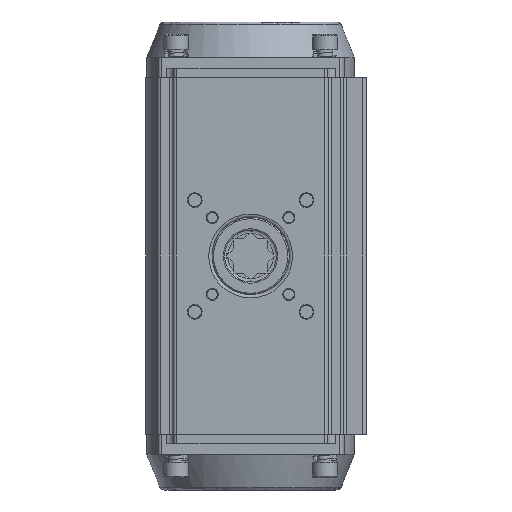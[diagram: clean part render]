
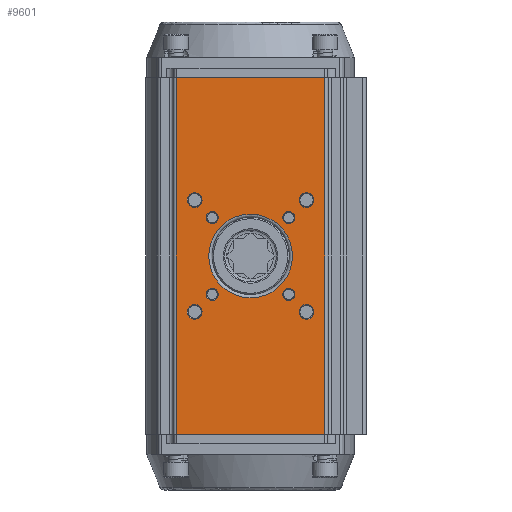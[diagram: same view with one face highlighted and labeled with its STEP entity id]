
A CAD part, front view. The second image highlights one B-rep face of the part: STEP entity #9601.
In plain terms, the highlighted planar face has unit normal (0, -1, 0).
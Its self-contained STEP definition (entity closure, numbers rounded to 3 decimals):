
#9601=ADVANCED_FACE('',(#20029,#20031,#20033,#20035,#20037,#20039,#20041,#20043,
#20045,#20047),#20049,.T.);
#20029=FACE_BOUND('',#20030,.T.);
#20030=EDGE_LOOP('',(#26183,#26184,#26185,#26186));
#20031=FACE_BOUND('',#20032,.T.);
#20032=EDGE_LOOP('',(#26187));
#20033=FACE_BOUND('',#20034,.T.);
#20034=EDGE_LOOP('',(#26188));
#20035=FACE_BOUND('',#20036,.T.);
#20036=EDGE_LOOP('',(#26189));
#20037=FACE_BOUND('',#20038,.T.);
#20038=EDGE_LOOP('',(#26190));
#20039=FACE_BOUND('',#20040,.T.);
#20040=EDGE_LOOP('',(#26191));
#20041=FACE_BOUND('',#20042,.T.);
#20042=EDGE_LOOP('',(#26192));
#20043=FACE_BOUND('',#20044,.T.);
#20044=EDGE_LOOP('',(#26193));
#20045=FACE_BOUND('',#20046,.T.);
#20046=EDGE_LOOP('',(#26194));
#20047=FACE_BOUND('',#20048,.T.);
#20048=EDGE_LOOP('',(#26195,#26196));
#20049=PLANE('',#20050);
#20050=AXIS2_PLACEMENT_3D('',#20051,#20052,#20053);
#20051=CARTESIAN_POINT('',(-50.,-77.5,-115.));
#20052=DIRECTION('',(0.,-1.,0.));
#20053=DIRECTION('',(0.,0.,-1.));
#26183=ORIENTED_EDGE('',*,*,#29109,.T.);
#26184=ORIENTED_EDGE('',*,*,#29189,.F.);
#26185=ORIENTED_EDGE('',*,*,#29169,.F.);
#26186=ORIENTED_EDGE('',*,*,#29190,.T.);
#26187=ORIENTED_EDGE('',*,*,#29031,.T.);
#26188=ORIENTED_EDGE('',*,*,#29033,.T.);
#26189=ORIENTED_EDGE('',*,*,#29035,.T.);
#26190=ORIENTED_EDGE('',*,*,#29037,.T.);
#26191=ORIENTED_EDGE('',*,*,#29039,.T.);
#26192=ORIENTED_EDGE('',*,*,#29041,.T.);
#26193=ORIENTED_EDGE('',*,*,#29043,.T.);
#26194=ORIENTED_EDGE('',*,*,#29045,.T.);
#26195=ORIENTED_EDGE('',*,*,#28908,.F.);
#26196=ORIENTED_EDGE('',*,*,#28909,.F.);
#28908=EDGE_CURVE('',#32675,#32676,#32677,.T.);
#28909=EDGE_CURVE('',#32676,#32675,#32678,.T.);
#29031=EDGE_CURVE('',#32910,#32910,#32911,.T.);
#29033=EDGE_CURVE('',#32914,#32914,#32915,.T.);
#29035=EDGE_CURVE('',#32918,#32918,#32919,.T.);
#29037=EDGE_CURVE('',#32922,#32922,#32923,.T.);
#29039=EDGE_CURVE('',#32926,#32926,#32927,.T.);
#29041=EDGE_CURVE('',#32930,#32930,#32931,.T.);
#29043=EDGE_CURVE('',#32934,#32934,#32935,.T.);
#29045=EDGE_CURVE('',#32938,#32938,#32939,.T.);
#29109=EDGE_CURVE('',#33052,#33050,#33053,.T.);
#29169=EDGE_CURVE('',#33163,#33165,#33166,.T.);
#29189=EDGE_CURVE('',#33165,#33050,#33194,.T.);
#29190=EDGE_CURVE('',#33163,#33052,#33195,.T.);
#32675=VERTEX_POINT('',#58434);
#32676=VERTEX_POINT('',#58435);
#32677=CIRCLE('',#58436,27.);
#32678=CIRCLE('',#58440,27.);
#32910=VERTEX_POINT('',#63666);
#32911=CIRCLE('',#63667,4.75);
#32914=VERTEX_POINT('',#63777);
#32915=CIRCLE('',#63778,3.9);
#32918=VERTEX_POINT('',#63888);
#32919=CIRCLE('',#63889,3.9);
#32922=VERTEX_POINT('',#63999);
#32923=CIRCLE('',#64000,4.75);
#32926=VERTEX_POINT('',#64110);
#32927=CIRCLE('',#64111,3.9);
#32930=VERTEX_POINT('',#64221);
#32931=CIRCLE('',#64222,4.75);
#32934=VERTEX_POINT('',#64332);
#32935=CIRCLE('',#64333,3.9);
#32938=VERTEX_POINT('',#64443);
#32939=CIRCLE('',#64444,4.75);
#33050=VERTEX_POINT('',#65636);
#33052=VERTEX_POINT('',#65641);
#33053=LINE('',#65642,#65643);
#33163=VERTEX_POINT('',#66011);
#33165=VERTEX_POINT('',#66016);
#33166=LINE('',#66017,#66018);
#33194=LINE('',#66090,#66091);
#33195=LINE('',#66093,#66094);
#58434=CARTESIAN_POINT('',(0.3,-77.5,-26.998));
#58435=CARTESIAN_POINT('',(-0.3,-77.5,26.998));
#58436=AXIS2_PLACEMENT_3D('',#58437,#58438,#58439);
#58437=CARTESIAN_POINT('',(0.,-77.5,0.));
#58438=DIRECTION('',(0.,-1.,0.));
#58439=DIRECTION('',(0.011,0.,-1.));
#58440=AXIS2_PLACEMENT_3D('',#58441,#58442,#58443);
#58441=CARTESIAN_POINT('',(0.,-77.5,0.));
#58442=DIRECTION('',(0.,-1.,0.));
#58443=DIRECTION('',(-0.011,0.,1.));
#63666=CARTESIAN_POINT('',(-36.062,-77.5,-40.812));
#63667=AXIS2_PLACEMENT_3D('',#63668,#63669,#63670);
#63668=CARTESIAN_POINT('',(-36.062,-77.5,-36.062));
#63669=DIRECTION('',(0.,1.,0.));
#63670=DIRECTION('',(0.,0.,-1.));
#63777=CARTESIAN_POINT('',(-24.749,-77.5,-28.649));
#63778=AXIS2_PLACEMENT_3D('',#63779,#63780,#63781);
#63779=CARTESIAN_POINT('',(-24.749,-77.5,-24.749));
#63780=DIRECTION('',(0.,1.,0.));
#63781=DIRECTION('',(0.,0.,-1.));
#63888=CARTESIAN_POINT('',(-24.749,-77.5,20.849));
#63889=AXIS2_PLACEMENT_3D('',#63890,#63891,#63892);
#63890=CARTESIAN_POINT('',(-24.749,-77.5,24.749));
#63891=DIRECTION('',(0.,1.,0.));
#63892=DIRECTION('',(0.,0.,-1.));
#63999=CARTESIAN_POINT('',(-36.062,-77.5,31.312));
#64000=AXIS2_PLACEMENT_3D('',#64001,#64002,#64003);
#64001=CARTESIAN_POINT('',(-36.062,-77.5,36.062));
#64002=DIRECTION('',(0.,1.,0.));
#64003=DIRECTION('',(0.,0.,-1.));
#64110=CARTESIAN_POINT('',(24.749,-77.5,-28.649));
#64111=AXIS2_PLACEMENT_3D('',#64112,#64113,#64114);
#64112=CARTESIAN_POINT('',(24.749,-77.5,-24.749));
#64113=DIRECTION('',(0.,1.,0.));
#64114=DIRECTION('',(0.,0.,-1.));
#64221=CARTESIAN_POINT('',(36.062,-77.5,-40.812));
#64222=AXIS2_PLACEMENT_3D('',#64223,#64224,#64225);
#64223=CARTESIAN_POINT('',(36.062,-77.5,-36.062));
#64224=DIRECTION('',(0.,1.,0.));
#64225=DIRECTION('',(0.,0.,-1.));
#64332=CARTESIAN_POINT('',(24.749,-77.5,20.849));
#64333=AXIS2_PLACEMENT_3D('',#64334,#64335,#64336);
#64334=CARTESIAN_POINT('',(24.749,-77.5,24.749));
#64335=DIRECTION('',(0.,1.,0.));
#64336=DIRECTION('',(0.,0.,-1.));
#64443=CARTESIAN_POINT('',(36.062,-77.5,31.312));
#64444=AXIS2_PLACEMENT_3D('',#64445,#64446,#64447);
#64445=CARTESIAN_POINT('',(36.062,-77.5,36.062));
#64446=DIRECTION('',(0.,1.,0.));
#64447=DIRECTION('',(0.,0.,-1.));
#65636=CARTESIAN_POINT('',(48.,-77.5,-115.));
#65641=CARTESIAN_POINT('',(-48.,-77.5,-115.));
#65642=CARTESIAN_POINT('',(-48.,-77.5,-115.));
#65643=VECTOR('',#65644,1.);
#65644=DIRECTION('',(1.,0.,0.));
#66011=CARTESIAN_POINT('',(-48.,-77.5,115.));
#66016=CARTESIAN_POINT('',(48.,-77.5,115.));
#66017=CARTESIAN_POINT('',(-48.,-77.5,115.));
#66018=VECTOR('',#66019,1.);
#66019=DIRECTION('',(1.,0.,0.));
#66090=CARTESIAN_POINT('',(48.,-77.5,115.));
#66091=VECTOR('',#66092,1.);
#66092=DIRECTION('',(0.,0.,-1.));
#66093=CARTESIAN_POINT('',(-48.,-77.5,115.));
#66094=VECTOR('',#66095,1.);
#66095=DIRECTION('',(0.,0.,-1.));
